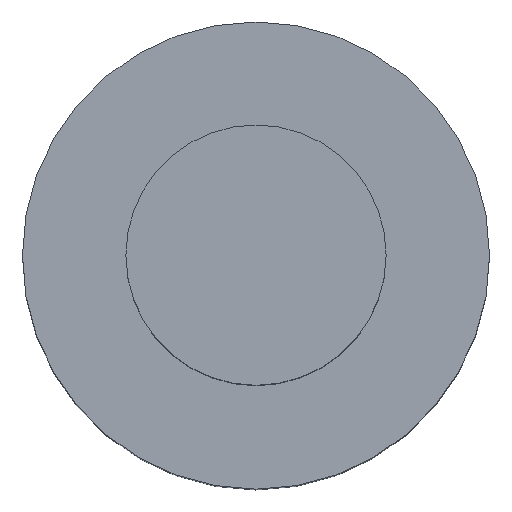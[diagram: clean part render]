
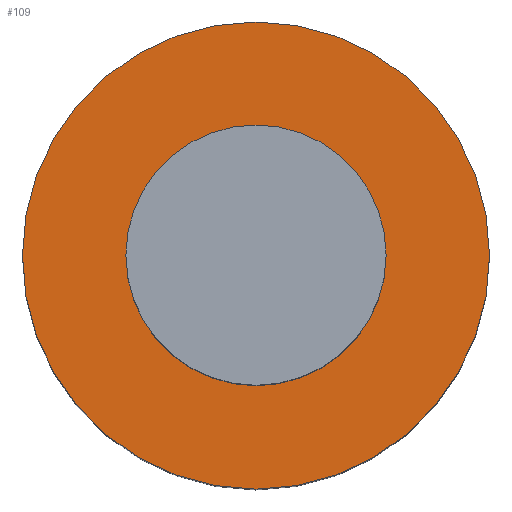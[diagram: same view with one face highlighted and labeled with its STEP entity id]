
A CAD part, top view. The second image highlights one B-rep face of the part: STEP entity #109.
In plain terms, the highlighted planar face has unit normal (0, 0, 1).
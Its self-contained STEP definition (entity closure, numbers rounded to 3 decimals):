
#24 = VERTEX_POINT('',#25);
#25 = CARTESIAN_POINT('',(17.5,0.,35.5));
#32 = CYLINDRICAL_SURFACE('',#33,17.5);
#33 = AXIS2_PLACEMENT_3D('',#34,#35,#36);
#34 = CARTESIAN_POINT('',(0.,0.,0.));
#35 = DIRECTION('',(-0.,-0.,-1.));
#36 = DIRECTION('',(1.,0.,0.));
#51 = EDGE_CURVE('',#24,#24,#52,.T.);
#52 = SURFACE_CURVE('',#53,(#58,#65),.PCURVE_S1.);
#53 = CIRCLE('',#54,17.5);
#54 = AXIS2_PLACEMENT_3D('',#55,#56,#57);
#55 = CARTESIAN_POINT('',(0.,0.,35.5));
#56 = DIRECTION('',(0.,0.,1.));
#57 = DIRECTION('',(1.,0.,0.));
#58 = PCURVE('',#32,#59);
#59 = DEFINITIONAL_REPRESENTATION('',(#60),#64);
#60 = LINE('',#61,#62);
#61 = CARTESIAN_POINT('',(-0.,-35.5));
#62 = VECTOR('',#63,1.);
#63 = DIRECTION('',(-1.,0.));
#64 = ( GEOMETRIC_REPRESENTATION_CONTEXT(2) 
PARAMETRIC_REPRESENTATION_CONTEXT() REPRESENTATION_CONTEXT('2D SPACE',''
  ) );
#65 = PCURVE('',#66,#71);
#66 = PLANE('',#67);
#67 = AXIS2_PLACEMENT_3D('',#68,#69,#70);
#68 = CARTESIAN_POINT('',(0.,0.,35.5));
#69 = DIRECTION('',(0.,0.,1.));
#70 = DIRECTION('',(1.,0.,-0.));
#71 = DEFINITIONAL_REPRESENTATION('',(#72),#76);
#72 = CIRCLE('',#73,17.5);
#73 = AXIS2_PLACEMENT_2D('',#74,#75);
#74 = CARTESIAN_POINT('',(0.,0.));
#75 = DIRECTION('',(1.,0.));
#76 = ( GEOMETRIC_REPRESENTATION_CONTEXT(2) 
PARAMETRIC_REPRESENTATION_CONTEXT() REPRESENTATION_CONTEXT('2D SPACE',''
  ) );
#109 = ADVANCED_FACE('',(#110,#113),#66,.T.);
#110 = FACE_BOUND('',#111,.T.);
#111 = EDGE_LOOP('',(#112));
#112 = ORIENTED_EDGE('',*,*,#51,.T.);
#113 = FACE_BOUND('',#114,.T.);
#114 = EDGE_LOOP('',(#115));
#115 = ORIENTED_EDGE('',*,*,#116,.F.);
#116 = EDGE_CURVE('',#117,#117,#119,.T.);
#117 = VERTEX_POINT('',#118);
#118 = CARTESIAN_POINT('',(9.75,0.,35.5));
#119 = SURFACE_CURVE('',#120,(#125,#132),.PCURVE_S1.);
#120 = CIRCLE('',#121,9.75);
#121 = AXIS2_PLACEMENT_3D('',#122,#123,#124);
#122 = CARTESIAN_POINT('',(0.,0.,35.5));
#123 = DIRECTION('',(0.,0.,1.));
#124 = DIRECTION('',(1.,0.,0.));
#125 = PCURVE('',#66,#126);
#126 = DEFINITIONAL_REPRESENTATION('',(#127),#131);
#127 = CIRCLE('',#128,9.75);
#128 = AXIS2_PLACEMENT_2D('',#129,#130);
#129 = CARTESIAN_POINT('',(0.,0.));
#130 = DIRECTION('',(1.,0.));
#131 = ( GEOMETRIC_REPRESENTATION_CONTEXT(2) 
PARAMETRIC_REPRESENTATION_CONTEXT() REPRESENTATION_CONTEXT('2D SPACE',''
  ) );
#132 = PCURVE('',#133,#138);
#133 = CYLINDRICAL_SURFACE('',#134,9.75);
#134 = AXIS2_PLACEMENT_3D('',#135,#136,#137);
#135 = CARTESIAN_POINT('',(0.,0.,35.5));
#136 = DIRECTION('',(-0.,-0.,-1.));
#137 = DIRECTION('',(1.,0.,0.));
#138 = DEFINITIONAL_REPRESENTATION('',(#139),#143);
#139 = LINE('',#140,#141);
#140 = CARTESIAN_POINT('',(-0.,0.));
#141 = VECTOR('',#142,1.);
#142 = DIRECTION('',(-1.,0.));
#143 = ( GEOMETRIC_REPRESENTATION_CONTEXT(2) 
PARAMETRIC_REPRESENTATION_CONTEXT() REPRESENTATION_CONTEXT('2D SPACE',''
  ) );
